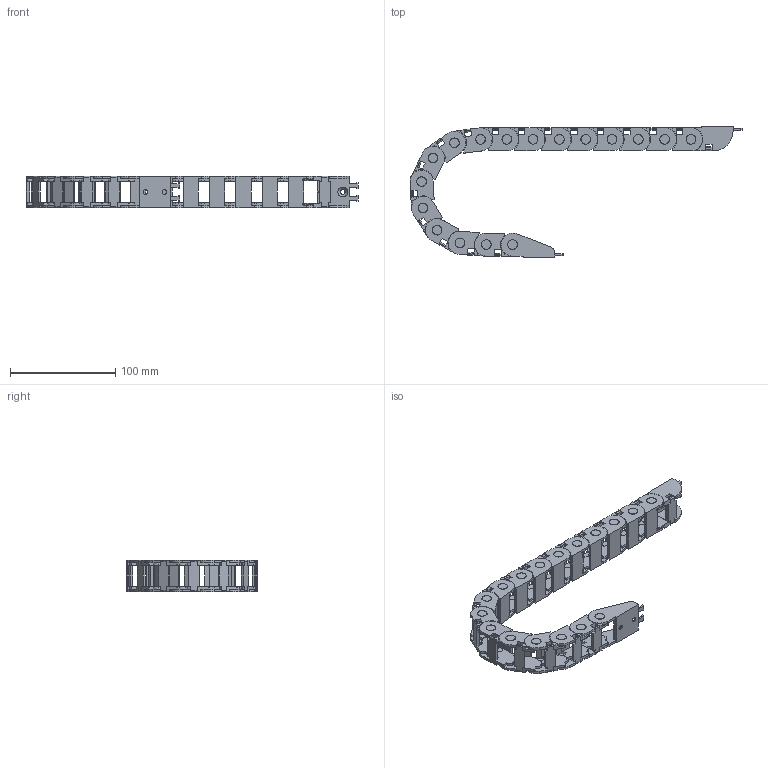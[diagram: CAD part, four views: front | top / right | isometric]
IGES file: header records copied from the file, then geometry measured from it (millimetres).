
Global section: file name: No Iges File Name specified; native system: Autodesk Inventor 2012; preprocessor: AutoDesk Inventor Iges Exporter R2012; author: cho; date: 20151020.004644; units: millimetre
Bounding box: 315.55 x 124 x 30.4 mm (x, y, z)
Volume: 102859.2 mm3; surface area: 96753.4 mm2
Topology: 35 solids, 35 shells, 1380 faces, 3804 edges, 2526 vertices
Faces by surface type: plane 1018, cylinder 238, revolution 124
Full cylindrical faces by diameter (mm): 9 x32
